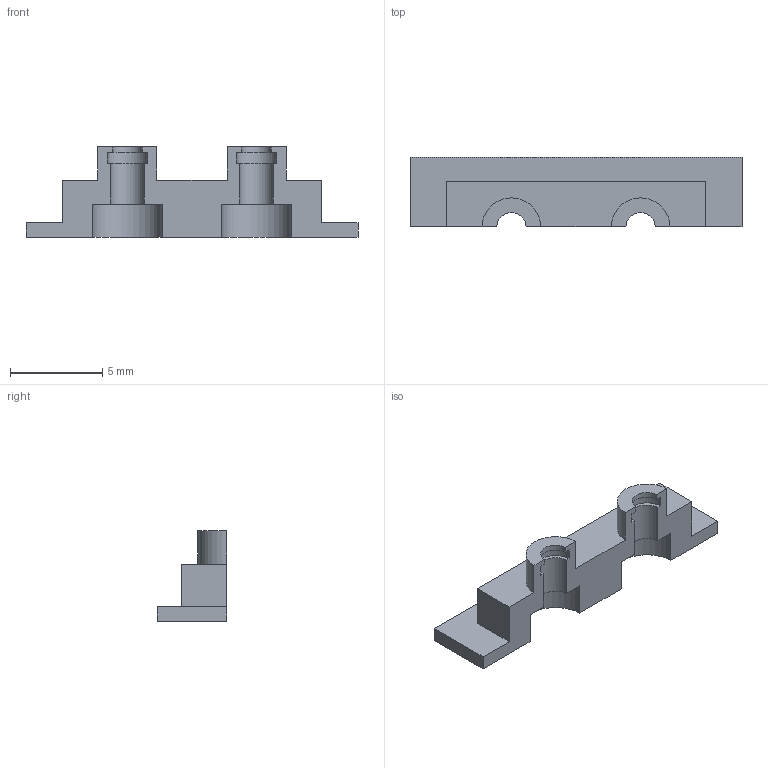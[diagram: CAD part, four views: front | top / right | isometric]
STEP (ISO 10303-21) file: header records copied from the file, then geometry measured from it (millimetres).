
FILE_DESCRIPTION(('Open CASCADE Model'),'2;1');
FILE_NAME('Open CASCADE Shape Model','2026-10-19T15:26:06',('Author'),( 'Open CASCADE'),'Open CASCADE STEP processor 7.9','Open CASCADE 7.9' ,'Unknown');
FILE_SCHEMA(('AUTOMOTIVE_DESIGN { 1 0 10303 214 1 1 1 1 }'));
Length unit declared in the file: millimetre
Products named in the file (1): Open CASCADE STEP translator 7.9 3
Bounding box: 18 x 3.75 x 4.92 mm (x, y, z)
Volume: 119.3 mm3; surface area: 287.1 mm2
Topology: 1 solids, 1 shells, 30 faces, 84 edges, 56 vertices
Faces by surface type: plane 20, cylinder 10
Entity records: 1998 total; most frequent: CARTESIAN_POINT 483, DIRECTION 230, ORIENTED_EDGE 168, PCURVE 168, DEFINITIONAL_REPRESENTATION 168, LINE 116, VECTOR 116, B_SPLINE_CURVE_WITH_KNOTS 96
